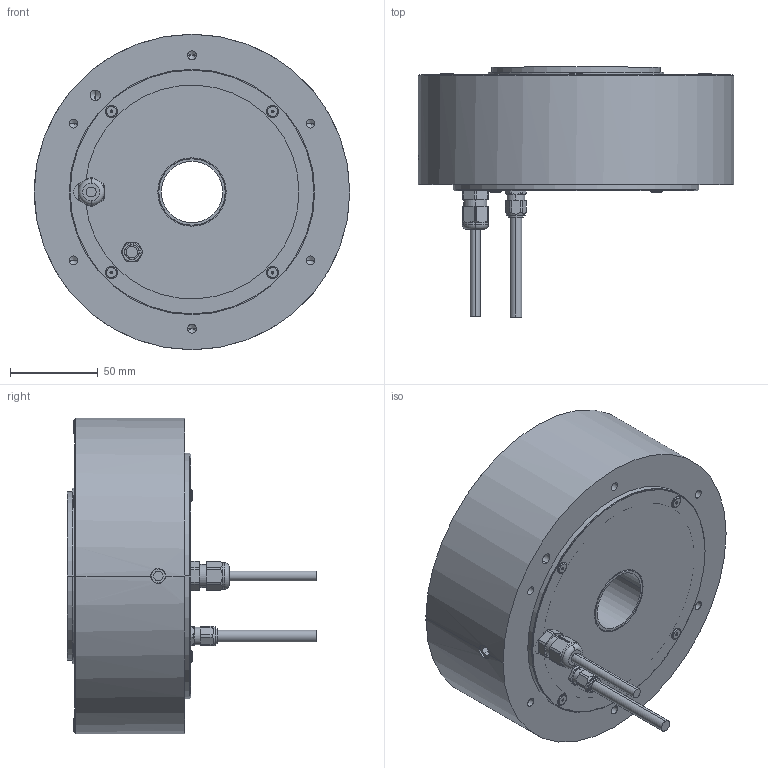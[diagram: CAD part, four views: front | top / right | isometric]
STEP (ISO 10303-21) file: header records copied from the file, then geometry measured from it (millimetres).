
FILE_DESCRIPTION (( 'STEP AP214' ), '1' );
FILE_NAME ('ND180-70-LSB-UC.step', '2025-03-11T01:01:54', ( '' ), ( '' ), 'SwSTEP 2.0', 'SolidWorks 2024', '' );
FILE_SCHEMA (( 'AUTOMOTIVE_DESIGN' ));
Length unit declared in the file: millimetre
Products named in the file (1): ND180-70-LSB-UC
Bounding box: 180 x 142.5 x 180 mm (x, y, z)
Volume: 607509.6 mm3; surface area: 201230.2 mm2
Topology: 17 solids, 17 shells, 671 faces, 1701 edges, 1056 vertices
Faces by surface type: cylinder 378, cone 131, plane 107, torus 30, sphere 20, bspline 5
Entity records: 21425 total; most frequent: CARTESIAN_POINT 5223, DIRECTION 3476, ORIENTED_EDGE 3258, EDGE_CURVE 1629, AXIS2_PLACEMENT_3D 1433, VERTEX_POINT 1056, EDGE_LOOP 769, CIRCLE 766
